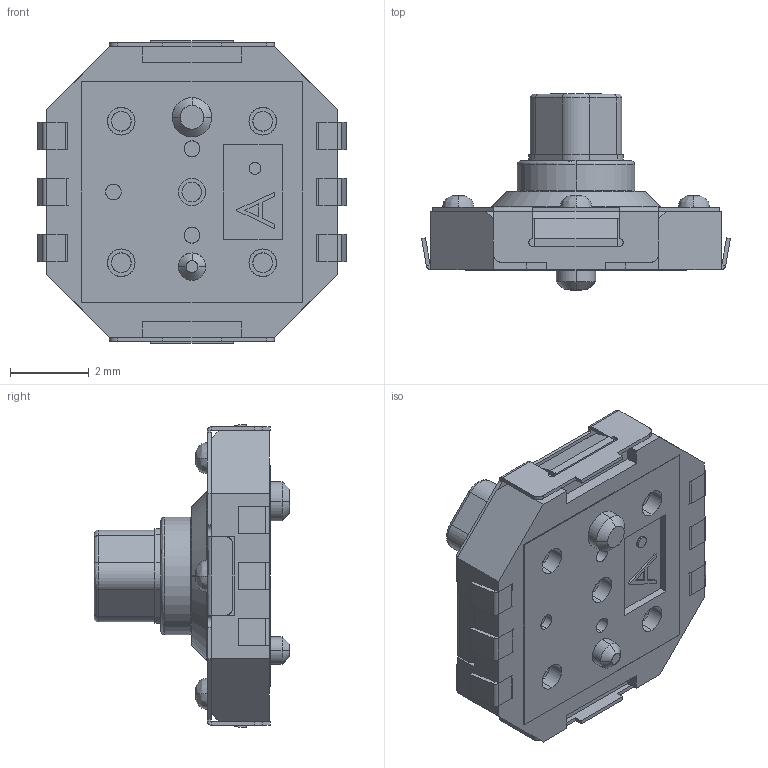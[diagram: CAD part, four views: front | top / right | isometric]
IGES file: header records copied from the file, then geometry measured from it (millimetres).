
Start section: SolidWorks IGES file using analytic representation for surfaces
Global section: file name: T:\02【工程資料】\(A00)圖面-社內\產品課\(17)MT5\MT5-L(沒DIP).IGS,15HSolidWorks; native system: 2008; preprocessor: SolidWorks 2008; author: 840601; date: 090917.164651; units: millimetre
Bounding box: 7.86 x 4.98 x 7.7 mm (x, y, z)
Surface area: 543 mm2 (no closed solid volume)
Topology: 0 solids, 0 shells, 1290 faces, 8819 edges, 8783 vertices
Faces by surface type: bspline 877, revolution 413
